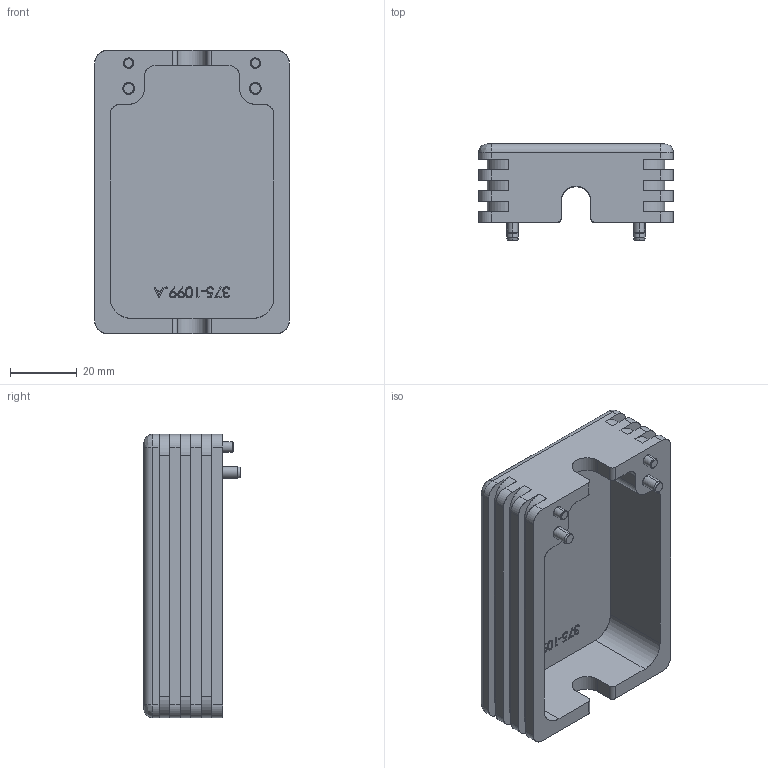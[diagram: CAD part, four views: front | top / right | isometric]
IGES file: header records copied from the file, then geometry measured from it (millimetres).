
Start section: SolidWorks IGES file using analytic representation for surfaces
Global section: file name: H:\Dropbox\Mechanical Engr\CAD models for customers\Accessories\200-C.IGS; native system: SolidWorks 2020; preprocessor: SolidWorks 2020; author: mrhan; date: 210827.103319; units: inch
Bounding box: 58.42 x 28.91 x 85.09 mm (x, y, z)
Surface area: 24092.2 mm2 (no closed solid volume)
Topology: 0 solids, 0 shells, 287 faces, 3658 edges, 3658 vertices
Faces by surface type: bspline 195, revolution 92
